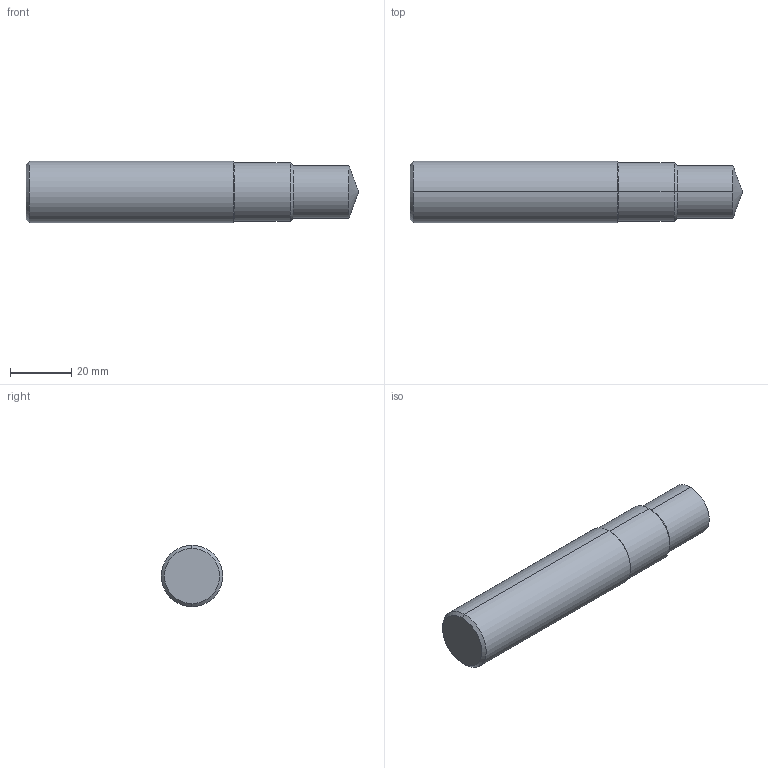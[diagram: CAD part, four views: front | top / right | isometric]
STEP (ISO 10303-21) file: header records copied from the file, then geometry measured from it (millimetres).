
FILE_DESCRIPTION (( 'STEP AP203' ), '1' );
FILE_NAME ('407046-RD-AS5202-08A.STEP', '2024-10-02T16:10:47', ( '' ), ( '' ), 'SwSTEP 2.0', 'SolidWorks 2024', '' );
FILE_SCHEMA (( 'CONFIG_CONTROL_DESIGN' ));
Length unit declared in the file: inch
Products named in the file (1): 407046-RD-AS5202-08A
Bounding box: 108 x 20 x 20 mm (x, y, z)
Volume: 31207.7 mm3; surface area: 6943.9 mm2
Topology: 1 solids, 1 shells, 16 faces, 30 edges, 16 vertices
Faces by surface type: cone 8, cylinder 6, plane 2
Entity records: 473 total; most frequent: DIRECTION 80, CARTESIAN_POINT 63, ORIENTED_EDGE 60, AXIS2_PLACEMENT_3D 33, EDGE_CURVE 30, FACE_OUTER_BOUND 16, ADVANCED_FACE 16, EDGE_LOOP 16
